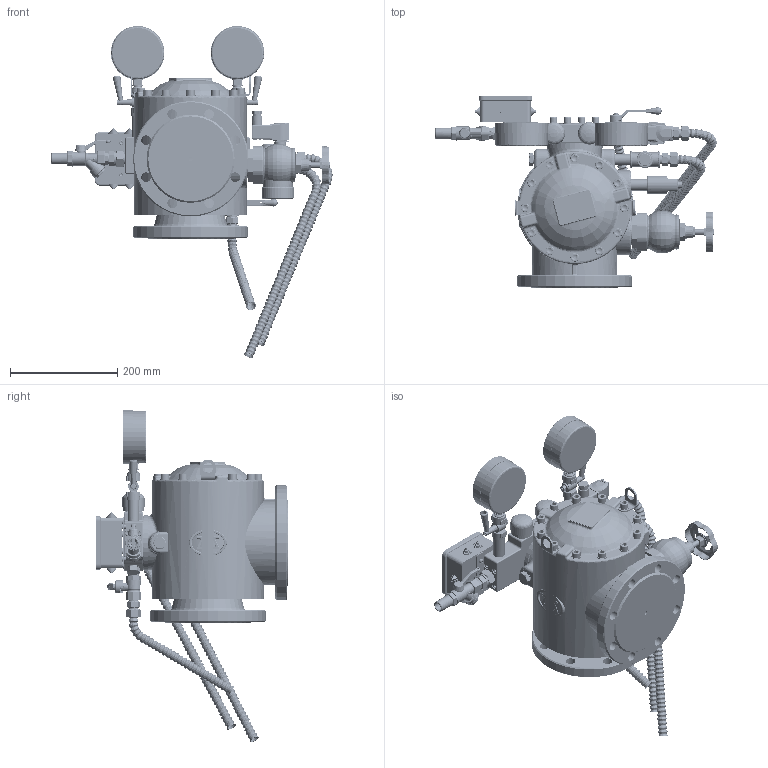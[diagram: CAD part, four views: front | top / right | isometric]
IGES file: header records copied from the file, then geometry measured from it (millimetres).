
Start section: File generated by T-FLEX CAD Version (null)
Global section: file name: 100.igs; native system: T-FLEX CAD; date: 211014.110944; units: millimetre
Bounding box: 525.14 x 359.3 x 619.04 mm (x, y, z)
Volume: 12375557.6 mm3; surface area: 1338266.8 mm2
Topology: 381 solids, 404 shells, 14059 faces, 34628 edges, 20864 vertices
Faces by surface type: plane 5091, cylinder 4268, revolution 1639, bspline 1411, cone 874, sphere 776
Full cylindrical faces by diameter (mm): 49 x1
